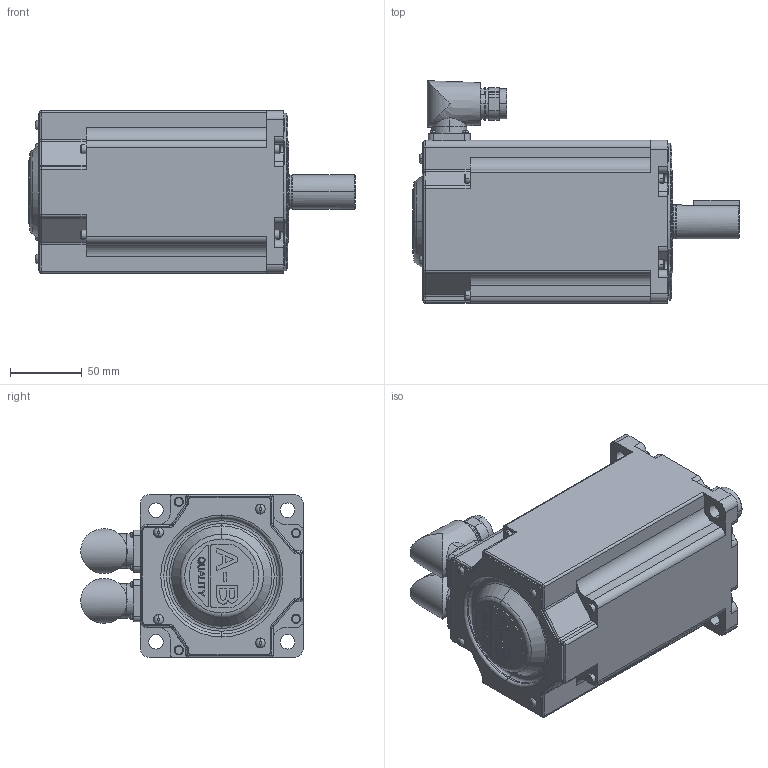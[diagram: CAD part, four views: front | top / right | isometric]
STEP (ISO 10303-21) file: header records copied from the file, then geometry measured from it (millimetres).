
FILE_DESCRIPTION (( 'STEP AP214' ), '1' );
FILE_NAME ('Rockwell Automation-MPM-B1302F-xx72xx.STEP', '2012-08-21T07:00:04', ( 'sysAdmin' ), ( 'SolidWorks' ), 'SwSTEP 2.0', 'SolidWorks 2012', '' );
FILE_SCHEMA (( 'AUTOMOTIVE_DESIGN' ));
Length unit declared in the file: inch
Products named in the file (5): Rockwell Automation-MPM-B1302F-xx72xx_MPM-xxxx-Power Connector-M23; Rockwell Automation-MPM-B1302F-xx72xx_MPM-xxxx-Encoder Connector; Rockwell Automation-MPM-B1302F-xx72xx_MPM-130x-Shaft_1302-SHAFT-KEY; Rockwell Automation-MPM-B1302F-xx72xx_MPM-130x-Body_1302; Rockwell Automation-MPM-B1302F-xx72xx
Assembly tree (4 placements, depth 2):
  Rockwell Automation-MPM-B1302F-xx72xx
    Rockwell Automation-MPM-B1302F-xx72xx_MPM-130x-Body_1302
    Rockwell Automation-MPM-B1302F-xx72xx_MPM-130x-Shaft_1302-SHAFT-KEY
    Rockwell Automation-MPM-B1302F-xx72xx_MPM-xxxx-Encoder Connector
    Rockwell Automation-MPM-B1302F-xx72xx_MPM-xxxx-Power Connector-M23
Bounding box: 228.57 x 155.45 x 113.79 mm (x, y, z)
Volume: 971426.4 mm3; surface area: 224977.4 mm2
Topology: 5 solids, 5 shells, 1026 faces, 2531 edges, 1611 vertices
Faces by surface type: plane 413, cylinder 385, cone 99, torus 96, bspline 33
Entity records: 35578 total; most frequent: CARTESIAN_POINT 7624, DIRECTION 5498, ORIENTED_EDGE 5058, EDGE_CURVE 2529, AXIS2_PLACEMENT_3D 2080, VERTEX_POINT 1611, VECTOR 1338, LINE 1338
